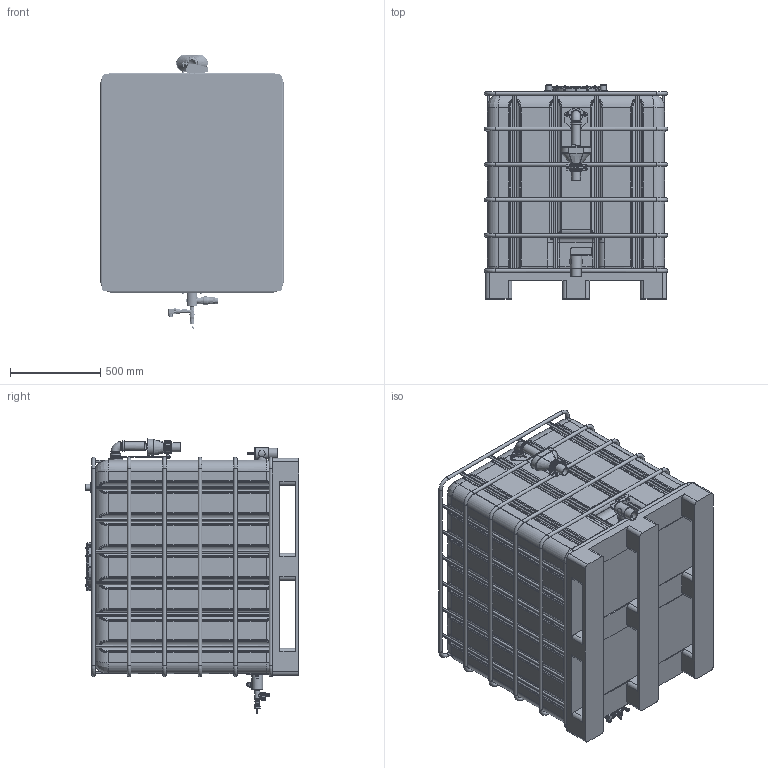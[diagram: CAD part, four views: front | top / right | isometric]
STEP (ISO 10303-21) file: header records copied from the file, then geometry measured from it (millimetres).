
FILE_DESCRIPTION(/* description */ (''),/* implementation_level */ '2;1');
FILE_NAME(/* name */ 'C:\VLTWRK\Inventor\Expansion\elko-mat\Multicontrol\MCA\MCA-G1000.stp',/* time_stamp */ '2016-01-29T09:35:26+01:00',/* author */ ('Walder'),/* organization */ (''),/* preprocessor_version */ 'ST-DEVELOPER v16.1',/* originating_system */ 'Autodesk Inventor 2016',/* authorisation */ '');
FILE_SCHEMA (('AUTOMOTIVE_DESIGN { 1 0 10303 214 3 1 1 }'));
Products named in the file (1): MCA-G1000
Bounding box: 1013 x 1182 x 1517.57 mm (x, y, z)
Surface area: 17608177.9 mm2
Topology: 25 solids, 26 shells, 4135 faces, 11569 edges, 7338 vertices
Faces by surface type: plane 1681, cylinder 1430, bspline 507, torus 319, cone 178, sphere 20
Full cylindrical faces by diameter (mm): 2.729 x1, 3 x2, 4 x1, 4.917 x1, 5 x1, 5.459 x3, 5.5 x1, 6 x9, 6.5 x1, 6.647 x1, 7 x5, 7.323 x1, 7.5 x2, 8 x17, 8.376 x1, 8.4 x5, 9 x5, 10 x13, 11 x1, 11.1 x1, 11.4 x1, 11.445 x3, 11.5 x3, 12 x11, 13 x2, 13.157 x1, 13.5 x1, 15.7 x2, 16 x12, 16.5 x1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
Entity records: 271785 total; most frequent: CARTESIAN_POINT 169401, ORIENTED_EDGE 21704, DIRECTION 17999, EDGE_CURVE 10844, VERTEX_POINT 7115, AXIS2_PLACEMENT_3D 6402, LINE 5195, VECTOR 5195
